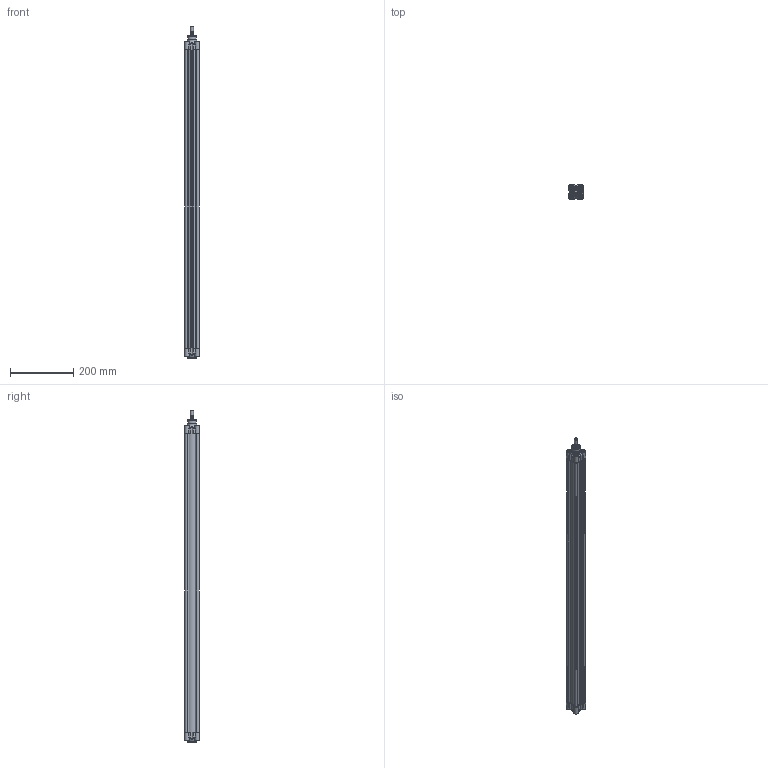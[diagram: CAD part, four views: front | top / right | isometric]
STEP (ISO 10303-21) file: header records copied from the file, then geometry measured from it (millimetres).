
FILE_DESCRIPTION(/* description */ ('CILINDRO D.E. MAGNETICO AMMORTIZZATO ISO 15552'),/* implementation_level */ '2;1');
FILE_NAME(/* name */ 'T:\Archivio Inventor\- 00 NUOVI STP PER SITO CON STELO CHE SI MUOVE\SERIE H - U\SERIE HDM\HDM032-TUBO NUOVO\HDM032.900.GS.M.stp',/* time_stamp */ '2018-07-25T14:31:15+02:00',/* author */ ('carlo.corazza'),/* organization */ (''),/* preprocessor_version */ 'ST-DEVELOPER v16.5',/* originating_system */ 'Autodesk Inventor 2017',/* authorisation */ '');
FILE_SCHEMA (('AUTOMOTIVE_DESIGN { 1 0 10303 214 3 1 1 }'));
Length unit declared in the file: millimetre
Products named in the file (5): HDM032.900.GS.M; TP; STELO-900; TA; CORPO-900
Assembly tree (4 placements, depth 2):
  HDM032.900.GS.M
    TP
    STELO-900
    TA
    CORPO-900
Bounding box: 47 x 47 x 1046 mm (x, y, z)
Volume: 676775.1 mm3; surface area: 520996.4 mm2
Topology: 4 solids, 18 shells, 969 faces, 2356 edges, 1494 vertices
Faces by surface type: plane 330, cylinder 260, bspline 190, cone 86, torus 83, sphere 20
Full cylindrical faces by diameter (mm): 2 x2, 2.1 x2, 4 x2, 4.5 x2, 4.917 x8, 6 x8, 6.2 x8, 6.3 x4, 7 x2, 7.8 x4, 7.9 x3, 8 x4, 8.566 x2, 10 x9, 10.3 x8, 11.6 x1, 12 x1, 12.8 x1, 12.847 x1, 16 x1, 17 x2, 22 x3, 28 x1, 30 x2, 32 x1
Entity records: 31186 total; most frequent: CARTESIAN_POINT 9171, ORIENTED_EDGE 4162, DIRECTION 4048, EDGE_CURVE 2081, AXIS2_PLACEMENT_3D 1569, VERTEX_POINT 1436, EDGE_LOOP 1302, FACE_OUTER_BOUND 969
